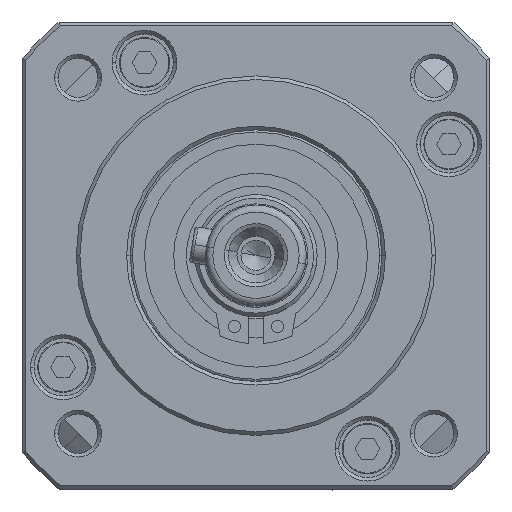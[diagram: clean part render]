
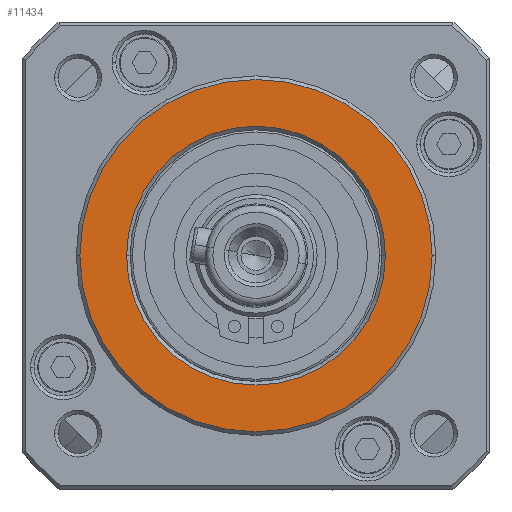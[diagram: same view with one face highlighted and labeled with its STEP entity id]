
A CAD part, top view. The second image highlights one B-rep face of the part: STEP entity #11434.
In plain terms, the highlighted planar face has unit normal (0, 0, 1).
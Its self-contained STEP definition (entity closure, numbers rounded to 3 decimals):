
#4 = DIRECTION ( 'NONE',  ( 0., 0., 1. ) ) ;
#1613 = EDGE_LOOP ( 'NONE', ( #49099, #48166 ) ) ;
#2154 = AXIS2_PLACEMENT_3D ( 'NONE', #40945, #48797, #45118 ) ;
#2794 = DIRECTION ( 'NONE',  ( -1., 0., 0. ) ) ;
#3125 = CARTESIAN_POINT ( 'NONE',  ( -20.147, 10.389, 76.75 ) ) ;
#3915 = CIRCLE ( 'NONE', #5362, 18. ) ;
#3940 = FACE_BOUND ( 'NONE', #1613, .T. ) ;
#5362 = AXIS2_PLACEMENT_3D ( 'NONE', #3125, #48534, #2794 ) ;
#7428 = CIRCLE ( 'NONE', #2154, 18. ) ;
#7444 = AXIS2_PLACEMENT_3D ( 'NONE', #30093, #49245, #22873 ) ;
#7621 = CARTESIAN_POINT ( 'NONE',  ( -44.647, 10.389, 76.75 ) ) ;
#10622 = VERTEX_POINT ( 'NONE', #32360 ) ;
#11434 = ADVANCED_FACE ( 'NONE', ( #3940, #20119 ), #43844, .F. ) ;
#12210 = VERTEX_POINT ( 'NONE', #30249 ) ;
#13848 = ORIENTED_EDGE ( 'NONE', *, *, #27719, .T. ) ;
#16768 = CIRCLE ( 'NONE', #7444, 24.5 ) ;
#17801 = CARTESIAN_POINT ( 'NONE',  ( -38.147, 10.389, 76.75 ) ) ;
#18138 = EDGE_CURVE ( 'NONE', #10622, #32265, #3915, .T. ) ;
#18613 = CARTESIAN_POINT ( 'NONE',  ( -20.147, 10.389, 76.75 ) ) ;
#19939 = EDGE_LOOP ( 'NONE', ( #45056, #13848 ) ) ;
#20119 = FACE_OUTER_BOUND ( 'NONE', #19939, .T. ) ;
#21573 = CIRCLE ( 'NONE', #27564, 24.5 ) ;
#22644 = EDGE_CURVE ( 'NONE', #27289, #12210, #16768, .T. ) ;
#22735 = DIRECTION ( 'NONE',  ( -1., 0., 0. ) ) ;
#22873 = DIRECTION ( 'NONE',  ( -1., 0., 0. ) ) ;
#24853 = CARTESIAN_POINT ( 'NONE',  ( -20.147, 10.389, 76.75 ) ) ;
#26206 = AXIS2_PLACEMENT_3D ( 'NONE', #24853, #28694, #28854 ) ;
#27289 = VERTEX_POINT ( 'NONE', #7621 ) ;
#27564 = AXIS2_PLACEMENT_3D ( 'NONE', #18613, #4, #22735 ) ;
#27719 = EDGE_CURVE ( 'NONE', #12210, #27289, #21573, .T. ) ;
#28694 = DIRECTION ( 'NONE',  ( 0., 0., -1. ) ) ;
#28854 = DIRECTION ( 'NONE',  ( -1., 0., 0. ) ) ;
#30093 = CARTESIAN_POINT ( 'NONE',  ( -20.147, 10.389, 76.75 ) ) ;
#30249 = CARTESIAN_POINT ( 'NONE',  ( 4.353, 10.389, 76.75 ) ) ;
#32265 = VERTEX_POINT ( 'NONE', #17801 ) ;
#32360 = CARTESIAN_POINT ( 'NONE',  ( -2.147, 10.389, 76.75 ) ) ;
#40945 = CARTESIAN_POINT ( 'NONE',  ( -20.147, 10.389, 76.75 ) ) ;
#43020 = EDGE_CURVE ( 'NONE', #32265, #10622, #7428, .T. ) ;
#43844 = PLANE ( 'NONE',  #26206 ) ;
#45056 = ORIENTED_EDGE ( 'NONE', *, *, #22644, .T. ) ;
#45118 = DIRECTION ( 'NONE',  ( -1., 0., 0. ) ) ;
#48166 = ORIENTED_EDGE ( 'NONE', *, *, #43020, .T. ) ;
#48534 = DIRECTION ( 'NONE',  ( 0., 0., -1. ) ) ;
#48797 = DIRECTION ( 'NONE',  ( 0., 0., -1. ) ) ;
#49099 = ORIENTED_EDGE ( 'NONE', *, *, #18138, .T. ) ;
#49245 = DIRECTION ( 'NONE',  ( 0., 0., 1. ) ) ;
